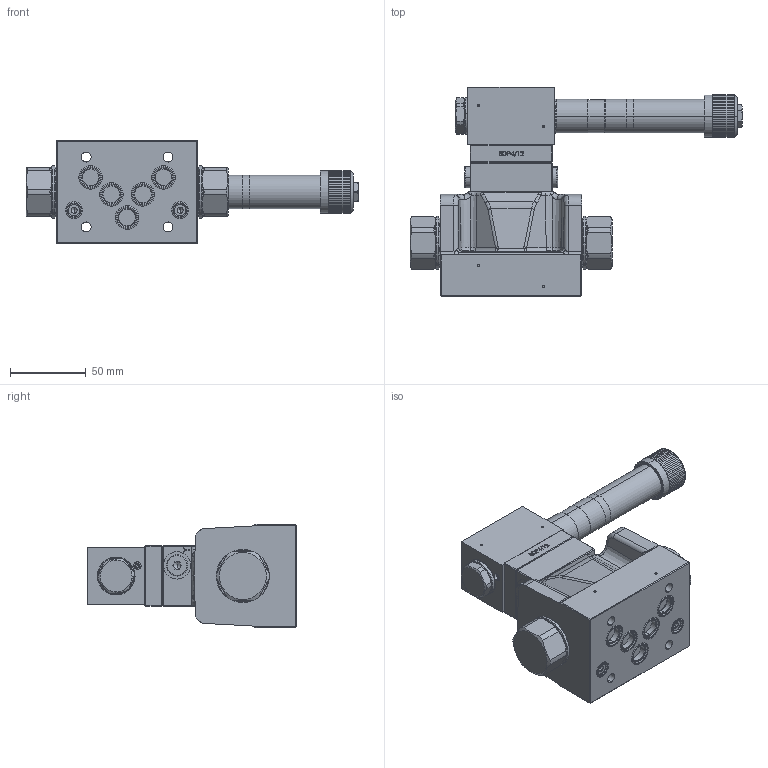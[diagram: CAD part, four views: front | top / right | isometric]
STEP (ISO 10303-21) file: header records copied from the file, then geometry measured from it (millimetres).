
FILE_DESCRIPTION (( 'STEP AP214' ), '1' );
FILE_NAME ('WVZFA10-4_2-Bside-te_pi_pe.STEP', '2019-06-26T06:53:22', ( '' ), ( '' ), 'SwSTEP 2.0', 'SolidWorks 2018', '' );
FILE_SCHEMA (( 'AUTOMOTIVE_DESIGN' ));
Length unit declared in the file: millimetre
Products named in the file (1): WVZFA10-4_2-Bside-te_pi_pe
Bounding box: 219.05 x 138.1 x 68 mm (x, y, z)
Volume: 591058.5 mm3; surface area: 85629.7 mm2
Topology: 13 solids, 21 shells, 1622 faces, 4051 edges, 2555 vertices
Faces by surface type: plane 736, cylinder 421, bspline 226, cone 154, torus 85
Entity records: 74328 total; most frequent: CARTESIAN_POINT 19568, ORIENTED_EDGE 8046, DIRECTION 7163, EDGE_CURVE 4023, AXIS2_PLACEMENT_3D 2579, VERTEX_POINT 2555, LINE 2005, VECTOR 2005
